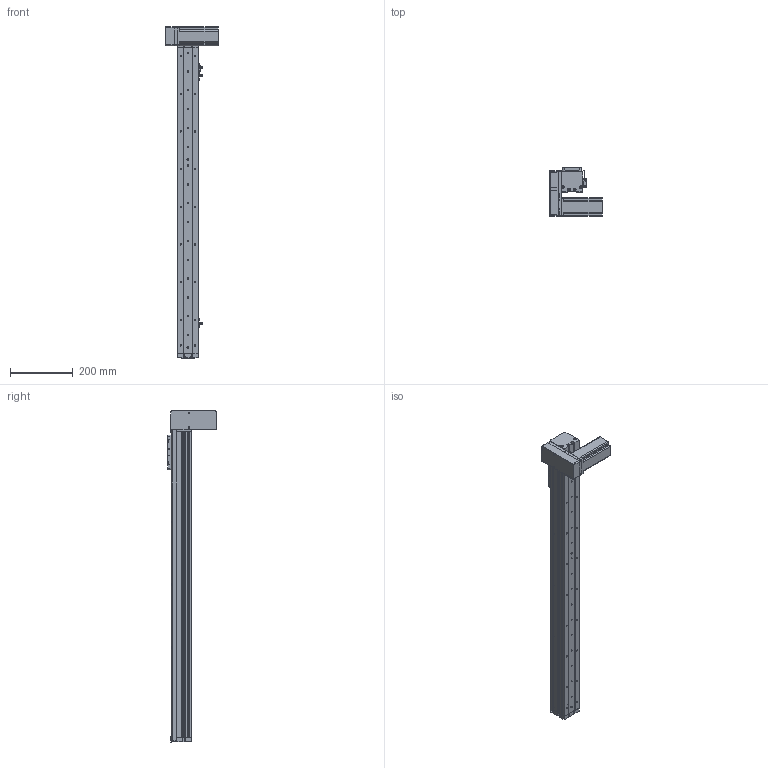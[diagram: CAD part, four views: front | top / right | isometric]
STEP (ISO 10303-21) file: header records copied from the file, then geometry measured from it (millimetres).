
FILE_DESCRIPTION (( 'STEP AP214' ), '1' );
FILE_NAME ('KSD68BS-S800-MRD-CR.STEP', '2019-08-28T02:26:05', ( '微软用户' ), ( '微软中国' ), 'SwSTEP 2.0', 'SolidWorks 2014', '' );
FILE_SCHEMA (( 'AUTOMOTIVE_DESIGN' ));
Length unit declared in the file: millimetre
Products named in the file (14): KSD68BS 800行程盖板全封闭; 68宽单导轨全封闭丝杆传动安装板1防护罩; KSD68BS 800行程侧板全封闭; 68宽单导轨全封闭同步带端板; 68单导轨全封闭同步带电机座右; 68遵裔啣揤啣1; 68单导轨全封闭同步带安装板; 悵誘欶奻狟殏; 68宽马达安装板连板上折同步带; 感应片68宽全封闭; U倰嫖萇EEㄜSX672; 台达ECMA－C20604AS伺服电机（400W); KSD68BS 800行程底板全封闭; KSD68BS-S800-MRD-CR
Assembly tree (17 placements, depth 2):
  KSD68BS-S800-MRD-CR
    KSD68BS 800行程底板全封闭
    台达ECMA－C20604AS伺服电机（400W)
    U倰嫖萇EEㄜSX672  x3
    感应片68宽全封闭
    68宽马达安装板连板上折同步带
    悵誘欶奻狟殏
    68单导轨全封闭同步带安装板
    68单导轨全封闭同步带电机座右
    68宽单导轨全封闭同步带端板
    KSD68BS 800行程侧板全封闭  x2
    68宽单导轨全封闭丝杆传动安装板1防护罩
    68遵裔啣揤啣1  x2
    KSD68BS 800行程盖板全封闭
Bounding box: 167.2 x 155.5 x 1058.1 mm (x, y, z)
Volume: 2267784.4 mm3; surface area: 844943.5 mm2
Topology: 18 solids, 18 shells, 1472 faces, 4181 edges, 2677 vertices
Faces by surface type: cylinder 689, plane 627, cone 156
Entity records: 46486 total; most frequent: CARTESIAN_POINT 7901, DIRECTION 6991, ORIENTED_EDGE 6690, EDGE_CURVE 3345, AXIS2_PLACEMENT_3D 2513, VERTEX_POINT 2195, LINE 1965, VECTOR 1965
